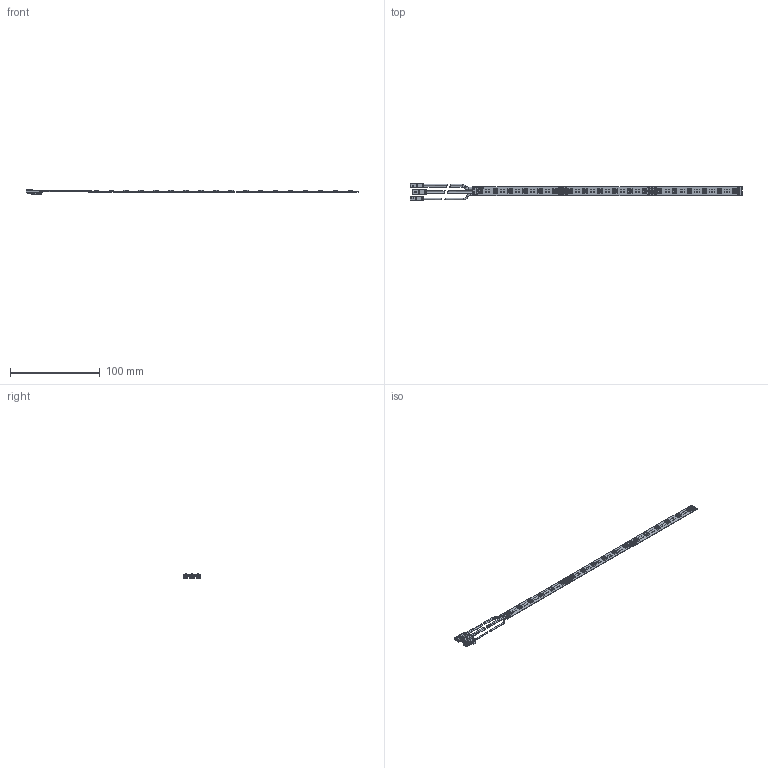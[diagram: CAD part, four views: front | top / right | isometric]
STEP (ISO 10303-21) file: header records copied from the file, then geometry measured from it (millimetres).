
FILE_DESCRIPTION (( 'STEP AP203' ), '1' );
FILE_NAME ('Versa_Inside_MaxiColor_24.STEP', '2024-11-28T08:25:59', ( '' ), ( '' ), 'SwSTEP 2.0', 'SolidWorks 2023', '' );
FILE_SCHEMA (( 'CONFIG_CONTROL_DESIGN' ));
Length unit declared in the file: millimetre
Products named in the file (6): 1916503_Pr1251_Mini_Stecker_LED_sw__L=55mm; 5602901_Anfang; LED_STECKER_M3_mit S-bogen; LED_Stecker_M2-M_AN_mit geschw Austrag; 5602901; Versa_Inside_MaxiColor_24
Assembly tree (6 placements, depth 2):
  Versa_Inside_MaxiColor_24
    5602901_Anfang
    5602901  x2
    1916503_Pr1251_Mini_Stecker_LED_sw__L=55mm
    LED_Stecker_M2-M_AN_mit geschw Austrag
    LED_STECKER_M3_mit S-bogen
Bounding box: 370 x 19 x 5.21 mm (x, y, z)
Volume: 3253.1 mm3; surface area: 10046.8 mm2
Topology: 17 solids, 17 shells, 2359 faces, 5740 edges, 3573 vertices
Faces by surface type: plane 1381, cylinder 546, bspline 262, torus 88, sphere 82
Entity records: 60875 total; most frequent: CARTESIAN_POINT 18863, ORIENTED_EDGE 8642, DIRECTION 8158, EDGE_CURVE 4321, VECTOR 2954, LINE 2954, VERTEX_POINT 2703, AXIS2_PLACEMENT_3D 2602
